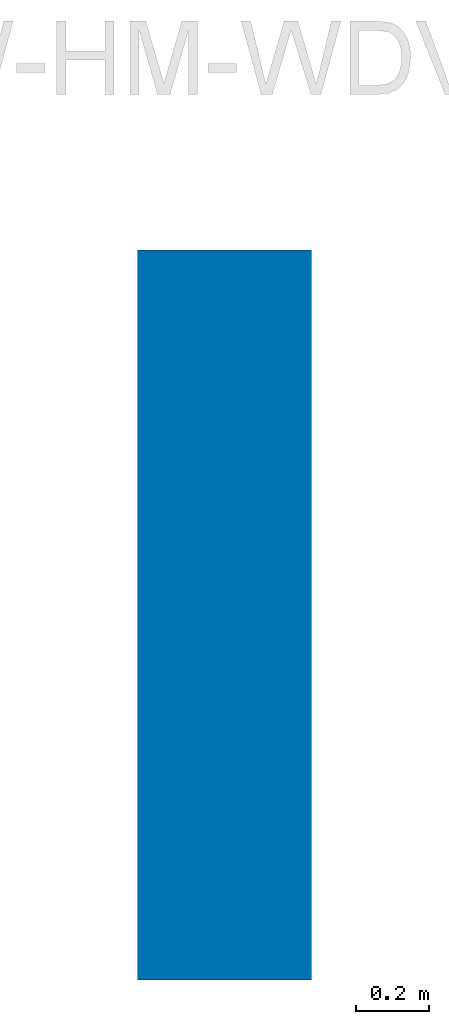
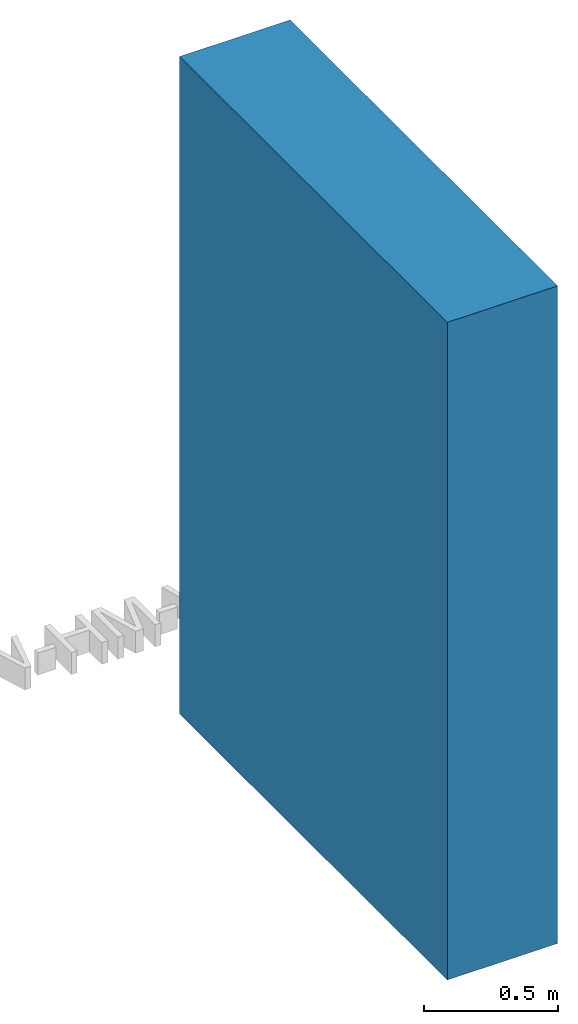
# Not in any storey, part 1 of 2: 1 wall.
"""IFC2X3 model written with IfcOpenShell, lengths in metres."""

from ifc_helpers import new_model, entity, si_unit, converted_unit, derived_unit, direction, frame, frame_2d, origin, place, context, subcontext, project, spatial, rectangle, extrude, material, layer, layer_set, layer_usage, type_object, element, save


model = new_model("IFC2X3")

# Units and contexts
model_context = context("Model", 3, precision=1e-05, world=origin(), true_north=direction((6.123031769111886e-17, 1.0)))
body_context = subcontext(model_context, "Body", "Model", "MODEL_VIEW")
ifc_project = project(units=[si_unit("LENGTHUNIT", "METRE"), si_unit("AREAUNIT", "SQUARE_METRE"), si_unit("VOLUMEUNIT", "CUBIC_METRE"), converted_unit("PLANEANGLEUNIT", "DEGREE", entity("IfcRatioMeasure", 0.017453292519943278), si_unit("PLANEANGLEUNIT", "RADIAN"), dimensions=[0, 0, 0, 0, 0, 0, 0]), si_unit("MASSUNIT", "GRAM", prefix="KILO"), derived_unit("MASSDENSITYUNIT", [(si_unit("MASSUNIT", "GRAM", prefix="KILO"), 1), (si_unit("LENGTHUNIT", "METRE"), -3)]), derived_unit("MOMENTOFINERTIAUNIT", [(si_unit("LENGTHUNIT", "METRE"), 4)]), si_unit("TIMEUNIT", "SECOND"), si_unit("FREQUENCYUNIT", "HERTZ"), si_unit("THERMODYNAMICTEMPERATUREUNIT", "DEGREE_CELSIUS"), derived_unit("THERMALTRANSMITTANCEUNIT", [(si_unit("MASSUNIT", "GRAM", prefix="KILO"), 1), (si_unit("THERMODYNAMICTEMPERATUREUNIT", "KELVIN"), -1), (si_unit("TIMEUNIT", "SECOND"), -3)]), derived_unit("VOLUMETRICFLOWRATEUNIT", [(si_unit("LENGTHUNIT", "METRE"), 3), (si_unit("TIMEUNIT", "SECOND"), -1)]), derived_unit("MASSFLOWRATEUNIT", [(si_unit("MASSUNIT", "GRAM", prefix="KILO"), 1), (si_unit("TIMEUNIT", "SECOND"), -1)]), derived_unit("ROTATIONALFREQUENCYUNIT", [(si_unit("TIMEUNIT", "SECOND"), -1)]), si_unit("ELECTRICCURRENTUNIT", "AMPERE"), si_unit("ELECTRICVOLTAGEUNIT", "VOLT"), si_unit("POWERUNIT", "WATT"), si_unit("FORCEUNIT", "NEWTON", prefix="KILO"), si_unit("ILLUMINANCEUNIT", "LUX"), si_unit("LUMINOUSFLUXUNIT", "LUMEN"), si_unit("LUMINOUSINTENSITYUNIT", "CANDELA"), derived_unit("USERDEFINED", [(si_unit("MASSUNIT", "GRAM", prefix="KILO"), -1), (si_unit("LENGTHUNIT", "METRE"), -2), (si_unit("TIMEUNIT", "SECOND"), 3), (si_unit("LUMINOUSFLUXUNIT", "LUMEN"), 1)]), derived_unit("SOUNDPOWERUNIT", [(si_unit("MASSUNIT", "GRAM", prefix="KILO"), 1), (si_unit("LENGTHUNIT", "METRE"), 2), (si_unit("TIMEUNIT", "SECOND"), -3)]), derived_unit("SOUNDPRESSUREUNIT", [(si_unit("MASSUNIT", "GRAM", prefix="KILO"), 1), (si_unit("LENGTHUNIT", "METRE"), -1), (si_unit("TIMEUNIT", "SECOND"), -2)]), derived_unit("LINEARVELOCITYUNIT", [(si_unit("LENGTHUNIT", "METRE"), 1), (si_unit("TIMEUNIT", "SECOND"), -1)]), si_unit("PRESSUREUNIT", "PASCAL"), derived_unit("USERDEFINED", [(si_unit("LENGTHUNIT", "METRE"), -2), (si_unit("MASSUNIT", "GRAM", prefix="KILO"), 1), (si_unit("TIMEUNIT", "SECOND"), -2)]), derived_unit("LINEARFORCEUNIT", [(si_unit("MASSUNIT", "GRAM", prefix="KILO"), 1), (si_unit("LENGTHUNIT", "METRE"), 1), (si_unit("TIMEUNIT", "SECOND"), -2), (si_unit("LENGTHUNIT", "METRE"), -1)]), derived_unit("PLANARFORCEUNIT", [(si_unit("MASSUNIT", "GRAM", prefix="KILO"), 1), (si_unit("LENGTHUNIT", "METRE"), 1), (si_unit("TIMEUNIT", "SECOND"), -2), (si_unit("LENGTHUNIT", "METRE"), -2)])], contexts=[model_context])

# Site
site_placement = place(None, origin())
site = spatial("IfcSite", under=ifc_project, at=site_placement, Name="Default", CompositionType="ELEMENT")

# Wall
ifc_material_1 = material(Name="fbim_16101505_AT_001_Gipsfaserplatte_12.5mm")
ifc_layer_1 = layer(ifc_material_1, 0.0125)
ifc_material_2 = material(Name="fbim_14153515_AT_003_Silikatputz_KP_3mm")
ifc_layer_2 = layer(ifc_material_2, 0.01)
ifc_material_3 = material(Name="fbim_14100530_AT_001_Holzweichfaserplatte")
ifc_layer_3 = layer(ifc_material_3, 0.06)
ifc_material_4 = material(Name="fbim_14104515_AT_090_Zellulose_Einblasdaemmung")
ifc_layer_4 = layer(ifc_material_4, 0.24)
ifc_material_5 = material(Name="fbim_12401005_AT_001_Brettsperrholz")
ifc_layer_5 = layer(ifc_material_5, 0.1)
ifc_material_6 = material(Name="fbim_14100510_AT_001_Hanffaserdaemmplatte")
ifc_layer_6 = layer(ifc_material_6, 0.04)
ifc_layer_7 = layer(ifc_material_1, 0.0125)
ifc_material_7 = material(Name="fbim_16106515_AT_001_Gipsspachtel")
ifc_layer_8 = layer(ifc_material_7, 0.001)
ifc_layer_set = layer_set([ifc_layer_1, ifc_layer_2, ifc_layer_3, ifc_layer_4, ifc_layer_5, ifc_layer_6, ifc_layer_7, ifc_layer_8], Name="Basiswand:fbimSg_Wall_lb_WOD_vis_at_NTR_natuREbuilt_AW-HM-WDV-VS_GK4")
ifc_layer_usage = layer_usage(ifc_layer_set, "AXIS2", "NEGATIVE", 0.23799999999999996)
wall_type = type_object("IfcWallType", Name="Basiswand:fbimSg_Wall_lb_WOD_vis_at_NTR_natuREbuilt_AW-HM-WDV-VS_GK4", PredefinedType="STANDARD", material=ifc_layer_set)
wall_placement = place(site_placement, frame((7.665751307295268, 23.773292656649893, 0.0), z_axis=(0.0, 0.0, 1.0), x_axis=(0.0, -1.0, 0.0)))
element("IfcWallStandardCase", 1, at=wall_placement, inside=site, type_object=wall_type, material=ifc_layer_usage, Name="Basiswand:fbimSg_Wall_lb_WOD_vis_at_NTR_natuREbuilt_AW-HM-WDV-VS_GK4", ObjectType="Basiswand:fbimSg_Wall_lb_WOD_vis_at_NTR_natuREbuilt_AW-HM-WDV-VS_GK4", context=body_context, shape_type="SweptSolid", body=[
    extrude(rectangle(XDim=2.0, YDim=0.4760000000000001, at=frame_2d((1.0, 0.0), x_axis=(-1.0, 0.0))), origin(), (0.0, 0.0, 1.0), 3.0000000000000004),
])

save(model, "model.ifc")
